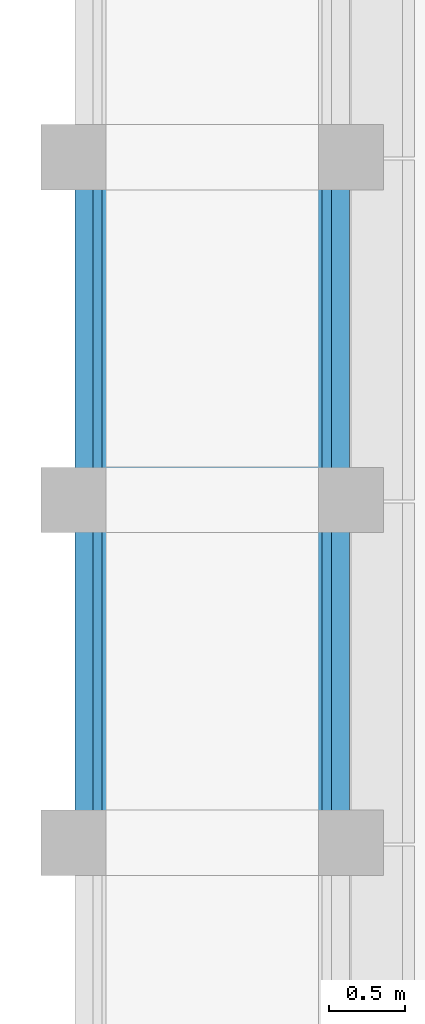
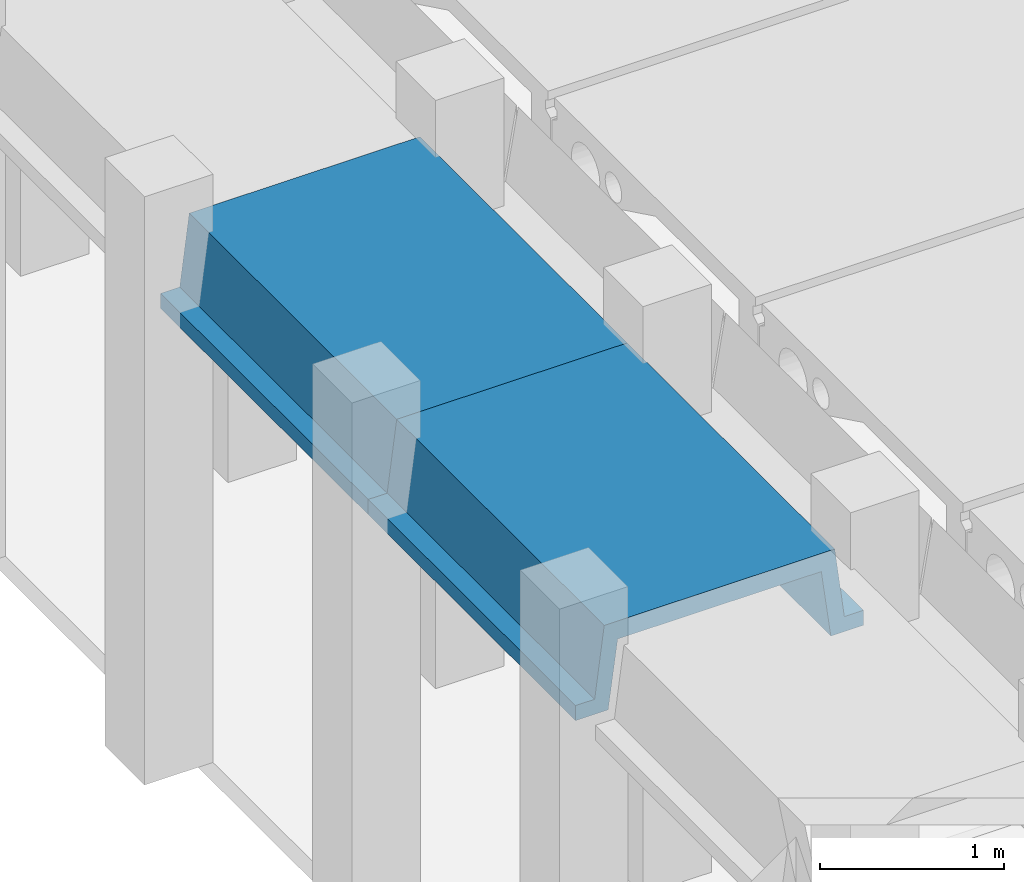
# One storey, part 9 of 21: 2 beams.
"""IFC2X3 building model written with IfcOpenShell, lengths in millimetres."""

from ifc_helpers import new_model, entity, si_unit, converted_unit, derived_unit, direction, frame, origin, place, context, subcontext, project, spatial, polyline, outline, extrude, material, type_object, element, save


model = new_model("IFC2X3")

# Units and contexts
model_context = context("Model", 3, precision=0.01, world=origin(), true_north=direction((6.12303176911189e-17, 1.0)))
body_context = subcontext(model_context, "Body", "Model", "MODEL_VIEW")
ifc_project = project(units=[si_unit("LENGTHUNIT", "METRE", prefix="MILLI"), si_unit("AREAUNIT", "SQUARE_METRE"), si_unit("VOLUMEUNIT", "CUBIC_METRE"), converted_unit("PLANEANGLEUNIT", "DEGREE", entity("IfcRatioMeasure", 0.0174532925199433), si_unit("PLANEANGLEUNIT", "RADIAN"), dimensions=[0, 0, 0, 0, 0, 0, 0]), si_unit("MASSUNIT", "GRAM", prefix="KILO"), derived_unit("MASSDENSITYUNIT", [(si_unit("MASSUNIT", "GRAM", prefix="KILO"), 1), (si_unit("LENGTHUNIT", "METRE"), -3)]), derived_unit("MOMENTOFINERTIAUNIT", [(si_unit("LENGTHUNIT", "METRE"), 4)]), si_unit("TIMEUNIT", "SECOND"), si_unit("FREQUENCYUNIT", "HERTZ"), si_unit("THERMODYNAMICTEMPERATUREUNIT", "DEGREE_CELSIUS"), derived_unit("THERMALTRANSMITTANCEUNIT", [(si_unit("MASSUNIT", "GRAM", prefix="KILO"), 1), (si_unit("THERMODYNAMICTEMPERATUREUNIT", "KELVIN"), -1), (si_unit("TIMEUNIT", "SECOND"), -3)]), derived_unit("VOLUMETRICFLOWRATEUNIT", [(si_unit("LENGTHUNIT", "METRE"), 3), (si_unit("TIMEUNIT", "SECOND"), -1)]), si_unit("ELECTRICCURRENTUNIT", "AMPERE"), si_unit("ELECTRICVOLTAGEUNIT", "VOLT"), si_unit("POWERUNIT", "WATT"), si_unit("FORCEUNIT", "NEWTON", prefix="KILO"), si_unit("ILLUMINANCEUNIT", "LUX"), si_unit("LUMINOUSFLUXUNIT", "LUMEN"), si_unit("LUMINOUSINTENSITYUNIT", "CANDELA"), derived_unit("USERDEFINED", [(si_unit("MASSUNIT", "GRAM", prefix="KILO"), -1), (si_unit("LENGTHUNIT", "METRE"), -2), (si_unit("TIMEUNIT", "SECOND"), 3), (si_unit("LUMINOUSFLUXUNIT", "LUMEN"), 1)]), derived_unit("LINEARVELOCITYUNIT", [(si_unit("LENGTHUNIT", "METRE"), 1), (si_unit("TIMEUNIT", "SECOND"), -1)]), si_unit("PRESSUREUNIT", "PASCAL"), derived_unit("USERDEFINED", [(si_unit("LENGTHUNIT", "METRE"), -2), (si_unit("MASSUNIT", "GRAM", prefix="KILO"), 1), (si_unit("TIMEUNIT", "SECOND"), -2)]), derived_unit("LINEARFORCEUNIT", [(si_unit("MASSUNIT", "GRAM", prefix="KILO"), 1), (si_unit("LENGTHUNIT", "METRE"), 1), (si_unit("TIMEUNIT", "SECOND"), -2), (si_unit("LENGTHUNIT", "METRE"), -1)]), derived_unit("PLANARFORCEUNIT", [(si_unit("MASSUNIT", "GRAM", prefix="KILO"), 1), (si_unit("LENGTHUNIT", "METRE"), 1), (si_unit("TIMEUNIT", "SECOND"), -2), (si_unit("LENGTHUNIT", "METRE"), -2)])], contexts=[model_context])

# Site, building, storey
site_placement = place(None, frame((10627.5135316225, 21939.0796949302, 0.0)))
site = spatial("IfcSite", under=ifc_project, at=site_placement, Name="Default", CompositionType="ELEMENT")
building_placement = place(site_placement, origin())
building = spatial("IfcBuilding", under=site, at=building_placement, CompositionType="ELEMENT")
storey_placement = place(building_placement, frame((0.0, 0.0, 7320.0)))
storey = spatial("IfcBuildingStorey", under=building, at=storey_placement, Name="R+2", CompositionType="ELEMENT", Elevation=7320.0)

# Beams
ifc_material = material(Name="Concrete, Precast Smooth, Light Grey")
beam_type = type_object("IfcBeamType", Name="Poutre petite:Poutre petite", PredefinedType="NOTDEFINED")
beam_1_placement = place(storey_placement, frame((29897.4864683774, -8379.07969493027, 3530.0), z_axis=(0.0, 0.0, 1.0), x_axis=(0.0, 1.0, 0.0)))
element("IfcBeam", 1, at=beam_1_placement, inside=storey, type_object=beam_type, material=ifc_material, Name="Poutre petite:Poutre petite", ObjectType="Poutre petite:Poutre petite", context=body_context, shape_type="SweptSolid", body=[
    extrude(outline(polyline([(103.333217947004, -905.014058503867), (203.333564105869, -905.014058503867), (203.333564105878, -700.013543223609), (-246.666782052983, -640.013497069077), (-246.666782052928, 640.013684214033), (203.333564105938, 700.013730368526), (203.333564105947, 905.01368421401), (103.333217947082, 905.013684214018), (103.333217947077, 785.013684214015), (-366.666782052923, 725.013684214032), (-366.666782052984, -725.01349706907), (103.333217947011, -785.013497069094), (103.333217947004, -905.014058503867)])), frame((0.0, 0.000187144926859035, -366.666782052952), z_axis=(1.0, 0.0, 0.0), x_axis=(0.0, 0.0, -1.0)), (0.0, 0.0, 1.0), 2260.0),
])
beam_2_placement = place(storey_placement, frame((29897.4864683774, -10639.0796949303, 3530.0), z_axis=(0.0, 0.0, 1.0), x_axis=(0.0, 1.0, 0.0)))
element("IfcBeam", 2, at=beam_2_placement, inside=storey, type_object=beam_type, material=ifc_material, Name="Poutre petite:Poutre petite", ObjectType="Poutre petite:Poutre petite", context=body_context, shape_type="SweptSolid", body=[
    extrude(outline(polyline([(103.333217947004, -905.014058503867), (203.333564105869, -905.014058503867), (203.333564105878, -700.013543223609), (-246.666782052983, -640.013497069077), (-246.666782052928, 640.013684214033), (203.333564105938, 700.013730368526), (203.333564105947, 905.01368421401), (103.333217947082, 905.013684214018), (103.333217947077, 785.013684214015), (-366.666782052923, 725.013684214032), (-366.666782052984, -725.01349706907), (103.333217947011, -785.013497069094), (103.333217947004, -905.014058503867)])), frame((0.0, 0.000187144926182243, -366.666782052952), z_axis=(1.0, 0.0, 0.0), x_axis=(0.0, 0.0, -1.0)), (0.0, 0.0, 1.0), 2260.0),
])

save(model, "model.ifc")
